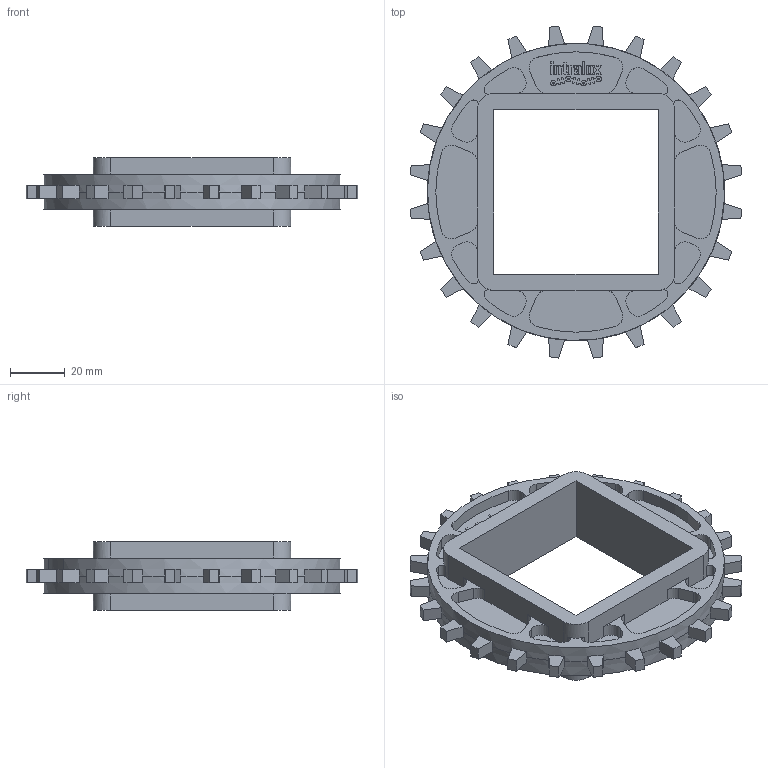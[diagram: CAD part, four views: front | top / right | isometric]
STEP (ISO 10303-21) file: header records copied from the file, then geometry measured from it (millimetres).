
FILE_DESCRIPTION((''),'2;1');
FILE_NAME('S1000_SPROCKET_46X25_60_SQ','2010-11-16T',('rklein'),('INTRALOX'),'PRO/ENGINEER BY PARAMETRIC TECHNOLOGY CORPORATION, 2009460','PRO/ENGINEER BY PARAMETRIC TECHNOLOGY CORPORATION, 2009460','');
FILE_SCHEMA(('CONFIG_CONTROL_DESIGN'));
Length unit declared in the file: inch
Products named in the file (1): S1000_SPROCKET_46X25_60_SQ
Bounding box: 121.09 x 121.09 x 24.89 mm (x, y, z)
Volume: 69874.2 mm3; surface area: 33800.7 mm2
Topology: 1 solids, 1 shells, 558 faces, 1612 edges, 1076 vertices
Faces by surface type: plane 324, cylinder 202, bspline 32
Entity records: 19102 total; most frequent: CARTESIAN_POINT 3960, ORIENTED_EDGE 3224, DIRECTION 3204, EDGE_CURVE 1612, AXIS2_PLACEMENT_3D 1082, VERTEX_POINT 1076, VECTOR 1040, LINE 1040
